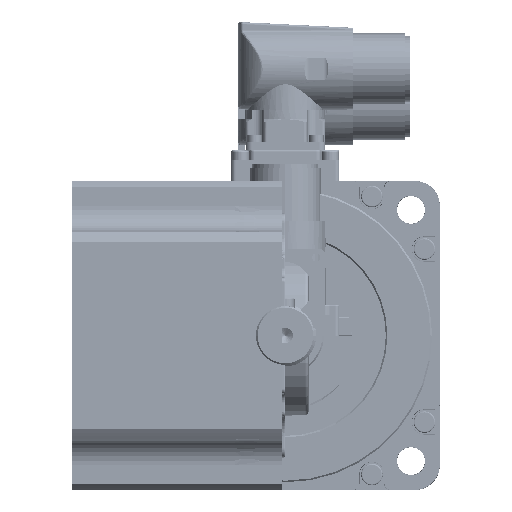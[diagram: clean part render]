
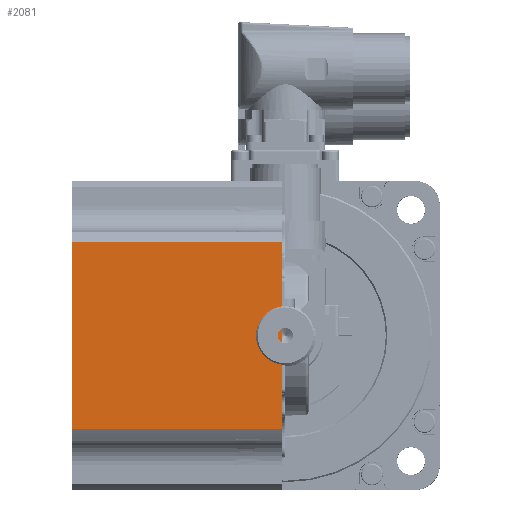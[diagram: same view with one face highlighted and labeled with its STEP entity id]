
A CAD part, front view. The second image highlights one B-rep face of the part: STEP entity #2081.
In plain terms, the highlighted planar face has unit normal (0, -1, 0).
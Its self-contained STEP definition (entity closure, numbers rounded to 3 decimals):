
#2081 = ADVANCED_FACE( '', ( #5407 ), #5408, .T. );
#5407 = FACE_OUTER_BOUND( '', #10799, .T. );
#5408 = PLANE( '', #10800 );
#10799 = EDGE_LOOP( '', ( #20284, #20285, #20286, #20287 ) );
#10800 = AXIS2_PLACEMENT_3D( '', #20288, #20289, #20290 );
#20284 = ORIENTED_EDGE( '', *, *, #32581, .F. );
#20285 = ORIENTED_EDGE( '', *, *, #32582, .T. );
#20286 = ORIENTED_EDGE( '', *, *, #32583, .F. );
#20287 = ORIENTED_EDGE( '', *, *, #32584, .T. );
#20288 = CARTESIAN_POINT( '', ( -200., -50., 50. ) );
#20289 = DIRECTION( '', ( 0., -1., 0. ) );
#20290 = DIRECTION( '', ( 0., 0., -1. ) );
#32581 = EDGE_CURVE( '', #39966, #39967, #39968, .T. );
#32582 = EDGE_CURVE( '', #39966, #39969, #39970, .T. );
#32583 = EDGE_CURVE( '', #39971, #39969, #39972, .F. );
#32584 = EDGE_CURVE( '', #39971, #39967, #39973, .T. );
#39966 = VERTEX_POINT( '', #51904 );
#39967 = VERTEX_POINT( '', #51905 );
#39968 = LINE( '', #51906, #51907 );
#39969 = VERTEX_POINT( '', #51908 );
#39970 = LINE( '', #51909, #51910 );
#39971 = VERTEX_POINT( '', #51911 );
#39972 = LINE( '', #51912, #51913 );
#39973 = LINE( '', #51914, #51915 );
#51904 = CARTESIAN_POINT( '', ( -1., -50., -30.369 ) );
#51905 = CARTESIAN_POINT( '', ( -69., -50., -30.369 ) );
#51906 = CARTESIAN_POINT( '', ( -60., -50., -30.369 ) );
#51907 = VECTOR( '', #65046, 1000. );
#51908 = CARTESIAN_POINT( '', ( -1., -50., 30.369 ) );
#51909 = CARTESIAN_POINT( '', ( -1., -50., 50. ) );
#51910 = VECTOR( '', #65047, 1000. );
#51911 = CARTESIAN_POINT( '', ( -69., -50., 30.369 ) );
#51912 = CARTESIAN_POINT( '', ( -60., -50., 30.369 ) );
#51913 = VECTOR( '', #65048, 1000. );
#51914 = CARTESIAN_POINT( '', ( -69., -50., 50. ) );
#51915 = VECTOR( '', #65049, 1000. );
#65046 = DIRECTION( '', ( -1., 0., 0. ) );
#65047 = DIRECTION( '', ( 0., 0., 1. ) );
#65048 = DIRECTION( '', ( -1., 0., 0. ) );
#65049 = DIRECTION( '', ( 0., 0., -1. ) );
